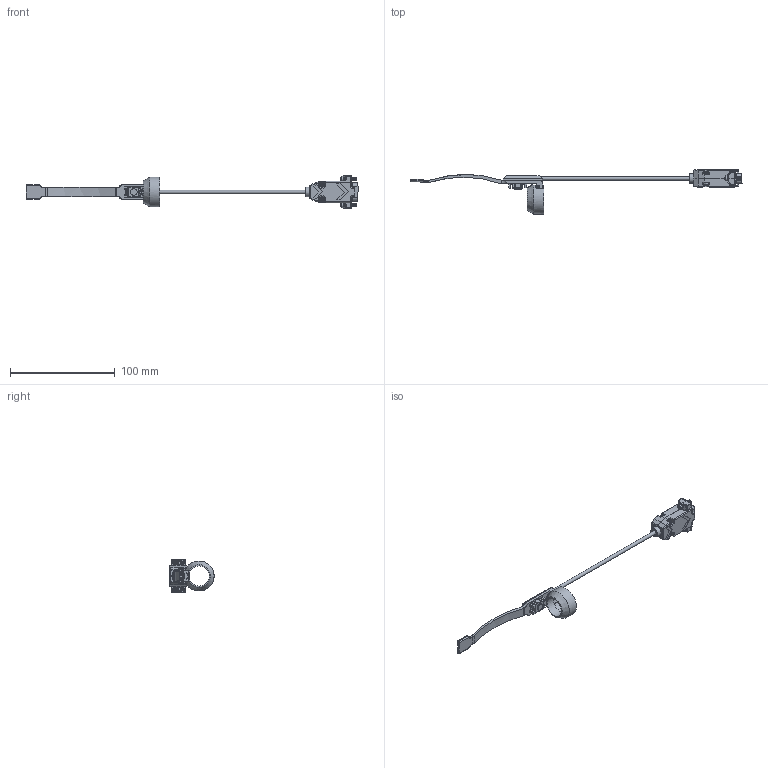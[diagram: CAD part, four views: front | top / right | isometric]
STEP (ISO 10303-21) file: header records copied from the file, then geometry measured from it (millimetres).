
FILE_DESCRIPTION((''),'2;1');
FILE_NAME('C:\3D Projects\3D Standard Parts\97236 Rev E Handheld Applicator Switch & Lever Assembly.stp','2008-04-29T11:12:41',('patch'),(''),'Autodesk Inventor 2008','Autodesk Inventor 2008','');
FILE_SCHEMA(('AUTOMOTIVE_DESIGN { 1 0 10303 214 1 1 1 1 }'));
Length unit declared in the file: inch
Products named in the file (20): 97236 Rev E Handheld Applicator Switch & Lever Assembly; 8900133 Rev A Handheld Applicator Finger Switch Actuator Lever; 8900132 Rev B Hinge Nut; 8900134 Rev C Switch Mount; 16; 8900136 Rev A Pushbutton Switch; 8900137 Rev A Wire 2 Leads; 8900138 Rev A D-Sub 9 Pin Connector Assembly; 8900141 D-Sub 9 Pin Male Connector Rear Shell; 8900141 D-Sub 9 Pin Male Connector Insulator; 8900141 D-Sub 9 Pin Male Connector Pin; 8900141 D-Sub 9 Pin Male Connector Front Shell; 8900257 Fillister Head Slotted #4-40 x 0.5; 8900257 Fillister Head Slotted #4-40 x 0.437; 8900257 Saddle Washer #4; 8900257 Rev A 9 Pin D-Sub Groove Shell; 8900257 Rev A 9 Pin D-Sub Strain Relief Range .210-.350; 8900257 Rev A 9 Pin D-Sub Tongue Shell; Hex Nut 4-40; 8900249 Rev B Valve Lever Return Leaf Spring Under Tension
Assembly tree (31 placements, depth 3):
  97236 Rev E Handheld Applicator Switch & Lever Assembly
    8900133 Rev A Handheld Applicator Finger Switch Actuator Lever
    8900132 Rev B Hinge Nut
    8900134 Rev C Switch Mount
    16
    8900136 Rev A Pushbutton Switch
    8900137 Rev A Wire 2 Leads
    8900138 Rev A D-Sub 9 Pin Connector Assembly
      8900141 D-Sub 9 Pin Male Connector Rear Shell
      8900141 D-Sub 9 Pin Male Connector Insulator
      8900141 D-Sub 9 Pin Male Connector Pin  x9
      8900141 D-Sub 9 Pin Male Connector Front Shell
      8900257 Fillister Head Slotted #4-40 x 0.5  x2
      8900257 Fillister Head Slotted #4-40 x 0.437  x2
      8900257 Saddle Washer #4  x2
      8900257 Rev A 9 Pin D-Sub Groove Shell
      8900257 Rev A 9 Pin D-Sub Strain Relief Range .210-.350
      8900257 Rev A 9 Pin D-Sub Tongue Shell
      Hex Nut 4-40  x2
    8900249 Rev B Valve Lever Return Leaf Spring Under Tension
Bounding box: 316.23 x 42.08 x 31.19 mm (x, y, z)
Volume: 19264.2 mm3; surface area: 22697.9 mm2
Topology: 30 solids, 30 shells, 1076 faces, 3498 edges, 2470 vertices
Faces by surface type: plane 471, cylinder 342, bspline 179, torus 33, sphere 32, cone 19
Full cylindrical faces by diameter (mm): 0.711 x2, 0.965 x9, 0.991 x9, 1.016 x1, 1.511 x9, 3.048 x4, 3.2 x2, 3.327 x1, 3.962 x3, 4.47 x1, 4.648 x4, 5.334 x1, 6.5 x1, 9.119 x1, 12.065 x1, 20.955 x1
Entity records: 37950 total; most frequent: CARTESIAN_POINT 13030, ORIENTED_EDGE 5424, DIRECTION 4741, EDGE_CURVE 2712, VERTEX_POINT 1871, AXIS2_PLACEMENT_3D 1630, VECTOR 1481, LINE 1481
